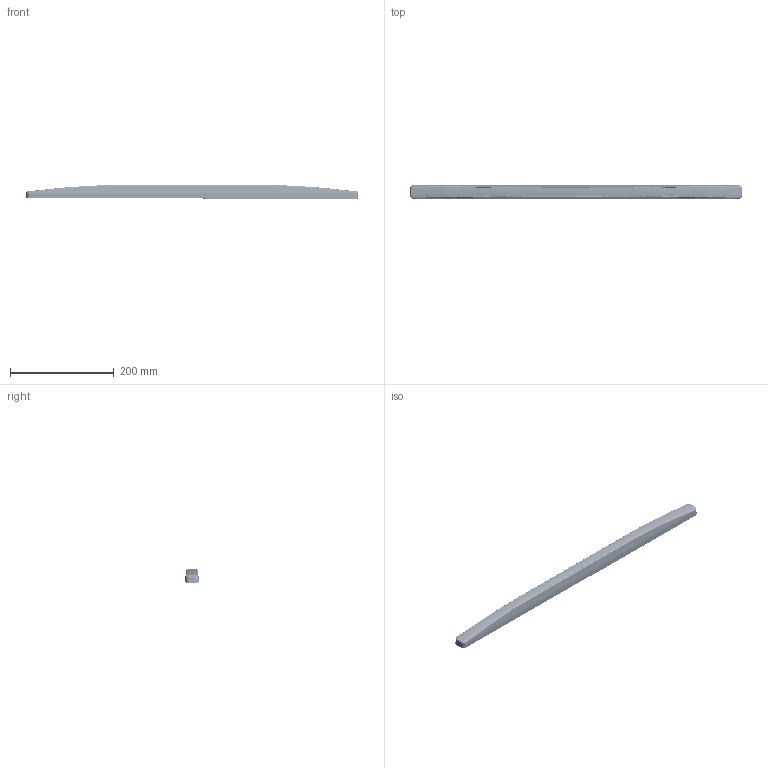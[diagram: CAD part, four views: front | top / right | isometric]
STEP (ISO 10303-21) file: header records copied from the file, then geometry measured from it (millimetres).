
FILE_DESCRIPTION(('CATIA V5 STEP Exchange','CAx-IF Rec.Pracs.--- Model Styling and Organization---1.5--- 2016-08-15','CAx-IF Rec.Pracs.---Supplemental Geometry---1.0---2011-11-01','CAx-IF Rec.Pracs.--- Composite Materials ---1.1---2010-07-15'),'2;1');
FILE_NAME('E:\tmp\ddx\2011206\HELLA_3D_data_LED_auxiliary_stop_lamp_LongLED_64_2DA-012-596-02.stp','2022-01-18T07:27:29+00:00',('none'),('none'),'CATIA Version 5-6 Release 2020 SP3 HF9','CATIA V5 STEP AP214 Edition 3 v2','none');
FILE_SCHEMA(('AUTOMOTIVE_DESIGN { 1 0 10303 214 3 1 1 1 }'));
Length unit declared in the file: millimetre
Products named in the file (1): 10001644824_D10_001
Bounding box: 638.6 x 26.6 x 27.57 mm (x, y, z)
Volume: 231856 mm3; surface area: 252225.7 mm2
Topology: 23 solids, 23 shells, 10842 faces, 27259 edges, 16129 vertices
Faces by surface type: bspline 6272, cylinder 2301, plane 1659, cone 161, torus 155, sphere 154, extrusion 84, revolution 56
Entity records: 569904 total; most frequent: CARTESIAN_POINT 372660, ORIENTED_EDGE 53966, EDGE_CURVE 26983, DIRECTION 16334, VERTEX_POINT 16129, B_SPLINE_CURVE_WITH_KNOTS 14028, EDGE_LOOP 11820, ADVANCED_FACE 10842
